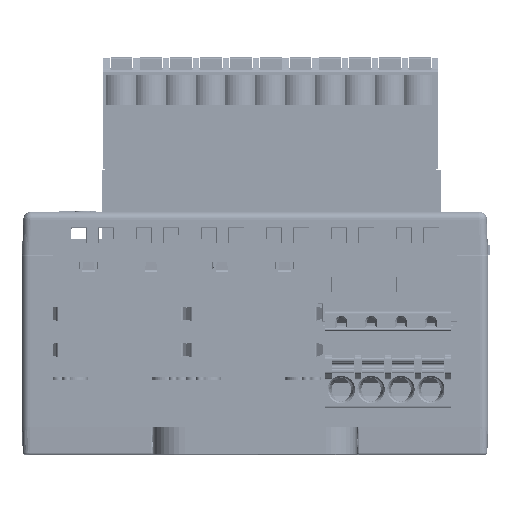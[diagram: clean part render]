
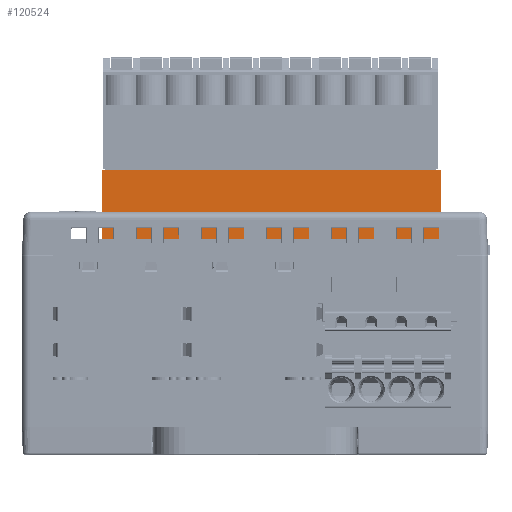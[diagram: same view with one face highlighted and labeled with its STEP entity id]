
A CAD part, front view. The second image highlights one B-rep face of the part: STEP entity #120524.
In plain terms, the highlighted planar face has unit normal (0, -1, 0).
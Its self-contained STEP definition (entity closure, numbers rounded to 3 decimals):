
#21333=DIRECTION('',(1.,0.,0.));
#21334=VECTOR('',#21333,43.3);
#21335=CARTESIAN_POINT('',(-19.55,-19.15,27.5));
#21336=LINE('',#21335,#21334);
#23769=DIRECTION('',(0.,0.,-1.));
#23770=VECTOR('',#23769,8.8);
#23771=CARTESIAN_POINT('',(23.75,-19.15,36.3));
#23772=LINE('',#23771,#23770);
#23777=DIRECTION('',(0.,0.,-1.));
#23778=VECTOR('',#23777,8.8);
#23779=CARTESIAN_POINT('',(-19.55,-19.15,36.3));
#23780=LINE('',#23779,#23778);
#23781=DIRECTION('',(-1.,0.,0.));
#23782=VECTOR('',#23781,43.3);
#23783=CARTESIAN_POINT('',(23.75,-19.15,36.3));
#23784=LINE('',#23783,#23782);
#61050=CARTESIAN_POINT('',(-19.55,-19.15,36.3));
#61052=VERTEX_POINT('',#61050);
#61056=CARTESIAN_POINT('',(23.75,-19.15,36.3));
#61057=VERTEX_POINT('',#61056);
#75763=CARTESIAN_POINT('',(-19.55,-19.15,27.5));
#75765=VERTEX_POINT('',#75763);
#75766=CARTESIAN_POINT('',(23.75,-19.15,27.5));
#75767=VERTEX_POINT('',#75766);
#120512=CARTESIAN_POINT('',(2.1,-19.15,31.7));
#120513=DIRECTION('',(0.,1.,0.));
#120514=DIRECTION('',(1.,0.,0.));
#120515=AXIS2_PLACEMENT_3D('',#120512,#120513,#120514);
#120516=PLANE('',#120515);
#120517=ORIENTED_EDGE('',*,*,#116669,.F.);
#120518=ORIENTED_EDGE('',*,*,#120458,.F.);
#120520=ORIENTED_EDGE('',*,*,#120519,.F.);
#120521=ORIENTED_EDGE('',*,*,#120497,.T.);
#120522=EDGE_LOOP('',(#120517,#120518,#120520,#120521));
#120523=FACE_OUTER_BOUND('',#120522,.F.);
#120524=ADVANCED_FACE('',(#120523),#120516,.F.);
#116669=EDGE_CURVE('',#75765,#75767,#21336,.T.);
#120458=EDGE_CURVE('',#61052,#75765,#23780,.T.);
#120497=EDGE_CURVE('',#61057,#75767,#23772,.T.);
#120519=EDGE_CURVE('',#61057,#61052,#23784,.T.);
